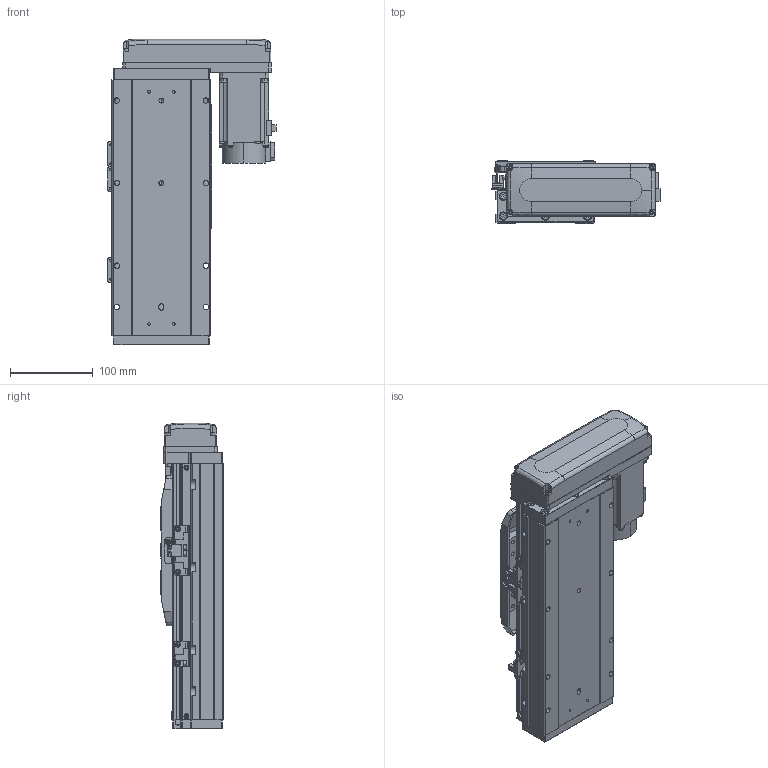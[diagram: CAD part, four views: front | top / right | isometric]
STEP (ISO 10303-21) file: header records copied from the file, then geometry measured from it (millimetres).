
FILE_DESCRIPTION (( 'STEP AP203' ), '1' );
FILE_NAME ('GTH12-100-BL-M40-C4.step', '2025-07-16T03:39:51', ( '' ), ( '' ), 'SwSTEP 2.0', 'SolidWorks 2023', '' );
FILE_SCHEMA (( 'CONFIG_CONTROL_DESIGN' ));
Length unit declared in the file: millimetre
Products named in the file (17): GTH120-027-1_GTH120-027-2; GTH80-028; hg-kn43j_-s100_; BTH-M3X5X6; GTH12-100-BL-M40-C4; GTH120-001_100; GTH120-004; GTH120-006; CTHA86-033_M40B; GTH80-022; GBT 70.3-M3×8; GBT 70.1-M5×16; 感应器总成右; GTH120-003; GTH120-013; GBT 70.1-M3×6; 感应器总成左
Assembly tree (38 placements, depth 2):
  GTH12-100-BL-M40-C4
    GTH120-001_100
    GTH120-003
    GTH120-006
    GTH120-004
    GTH120-013
    GBT 70.1-M3×6  x2
    GBT 70.1-M5×16  x10
    GBT 70.3-M3×8  x4
    GTH80-022
    GTH80-028  x2
    BTH-M3X5X6  x8
    hg-kn43j_-s100_
    CTHA86-033_M40B
    GTH120-027-1_GTH120-027-2
    感应器总成右  x2
    感应器总成左
Bounding box: 203.5 x 76 x 370.5 mm (x, y, z)
Volume: 3267860.3 mm3; surface area: 402923.2 mm2
Topology: 55 solids, 55 shells, 2290 faces, 5345 edges, 3291 vertices
Faces by surface type: plane 1188, cylinder 642, cone 284, torus 162, sphere 8, bspline 6
Entity records: 49199 total; most frequent: CARTESIAN_POINT 8424, DIRECTION 8292, ORIENTED_EDGE 7682, EDGE_CURVE 3841, AXIS2_PLACEMENT_3D 2892, LINE 2508, VECTOR 2508, VERTEX_POINT 2424
